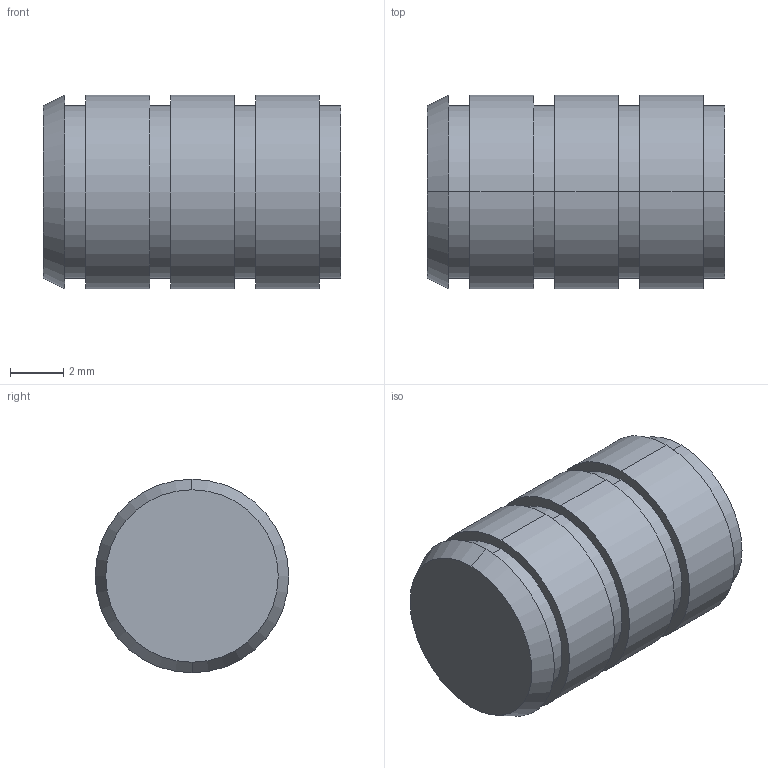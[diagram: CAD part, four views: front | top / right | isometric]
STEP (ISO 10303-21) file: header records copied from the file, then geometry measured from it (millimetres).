
FILE_DESCRIPTION (( 'STEP AP203' ), '1' );
FILE_NAME ('FSUK-BLD-M05-S.STEP', '2021-04-15T19:28:32', ( '' ), ( '' ), 'SwSTEP 2.0', 'SolidWorks 2021', '' );
FILE_SCHEMA (( 'CONFIG_CONTROL_DESIGN' ));
Length unit declared in the file: millimetre
Products named in the file (1): FSUK-BLD-M05-S
Bounding box: 11.2 x 7.3 x 7.3 mm (x, y, z)
Volume: 285.1 mm3; surface area: 507.3 mm2
Topology: 1 solids, 1 shells, 33 faces, 66 edges, 41 vertices
Faces by surface type: cylinder 18, plane 9, cone 6
Entity records: 935 total; most frequent: DIRECTION 172, CARTESIAN_POINT 139, ORIENTED_EDGE 128, AXIS2_PLACEMENT_3D 74, EDGE_CURVE 64, EDGE_LOOP 41, VERTEX_POINT 41, CIRCLE 40
